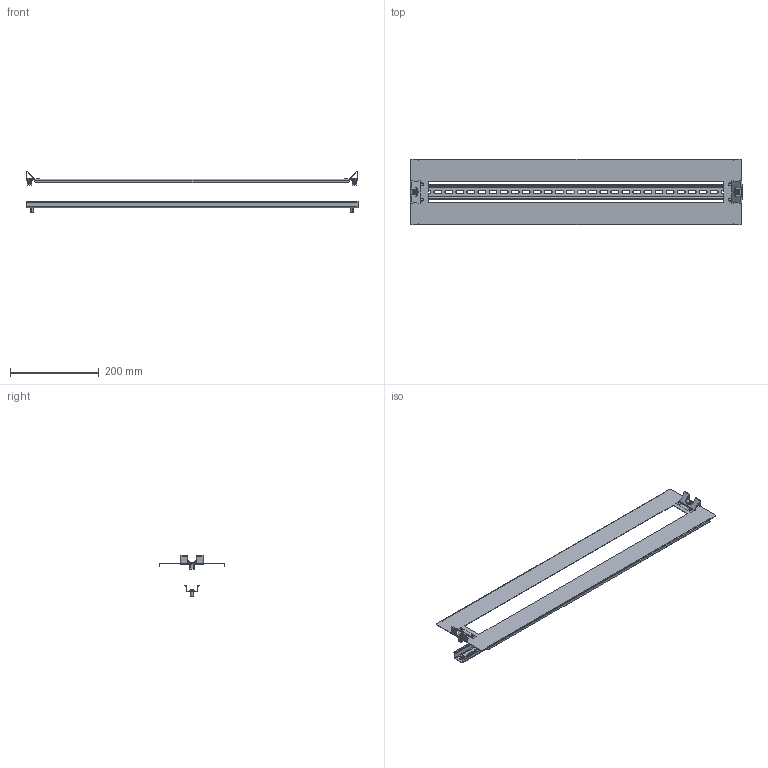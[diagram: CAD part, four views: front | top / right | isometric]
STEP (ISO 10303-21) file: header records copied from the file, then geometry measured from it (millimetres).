
FILE_DESCRIPTION (( 'STEP AP203' ), '1' );
FILE_NAME ('R5ISP815.STEP', '2022-04-13T09:30:25', ( '' ), ( '' ), 'SwSTEP 2.0', 'SolidWorks 2020', '' );
FILE_SCHEMA (( 'CONFIG_CONTROL_DESIGN' ));
Length unit declared in the file: millimetre
Products named in the file (9): RB.0517.00.00.0_-04; M5x12 DIN 7500 C Torx Zinc_stright; RB.0493.00.01.1_-04; 294-9118.00-00050; RB.0392.00.02.0_-01; R5ISP815; RB.0376.00.00.0_-00; RB.0493.00.00.1 捘_-04
Assembly tree (11 placements, depth 3):
  R5ISP815
    RB.0493.00.00.1 捘_-04
      RB.0493.00.01.1_-04
      RB.0392.00.02.0_-01
      RB.0392.00.02.0_-01
    RB.0517.00.00.0_-04
    294-9118.00-00050  x2
    RB.0376.00.00.0_-00  x2
    M5x12 DIN 7500 C Torx Zinc_stright  x2
Bounding box: 750 x 148 x 93.03 mm (x, y, z)
Volume: 156501 mm3; surface area: 277719.3 mm2
Topology: 10 solids, 10 shells, 722 faces, 1838 edges, 1154 vertices
Faces by surface type: plane 458, cylinder 192, cone 24, bspline 20, torus 16, sphere 12
Entity records: 18617 total; most frequent: CARTESIAN_POINT 3406, DIRECTION 2956, ORIENTED_EDGE 2912, EDGE_CURVE 1456, LINE 1042, VECTOR 1042, AXIS2_PLACEMENT_3D 957, VERTEX_POINT 927
